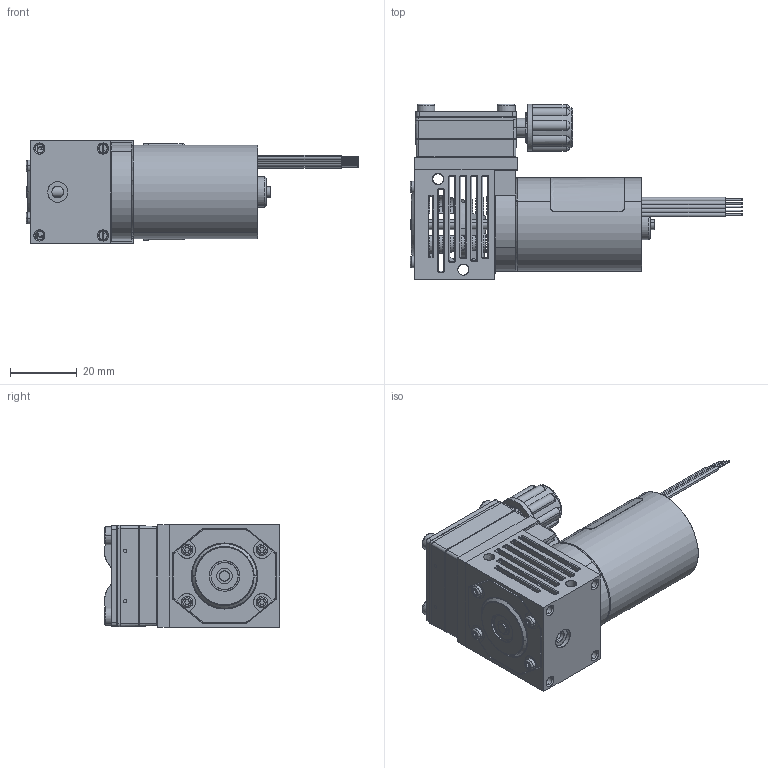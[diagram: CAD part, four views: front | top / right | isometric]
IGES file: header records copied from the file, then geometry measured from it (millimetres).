
Start section: SolidWorks IGES file using analytic representation for surfaces
Global section: file name: C:\SWPDM\GDT\Germany\600 User Files\Michael Buchberger Files\CAD_Model Homepage\6313 BLDC Standard DN4-6\6313 BLDC Standard DN4-6.IGS; native system: SolidWorks 2020; preprocessor: SolidWorks 2020; author: MXB6966; date: 220124.135542; units: millimetre
Bounding box: 99.25 x 52.45 x 30.7 mm (x, y, z)
Surface area: 23296.3 mm2 (no closed solid volume)
Topology: 0 solids, 0 shells, 878 faces, 14055 edges, 14015 vertices
Faces by surface type: revolution 487, bspline 391
